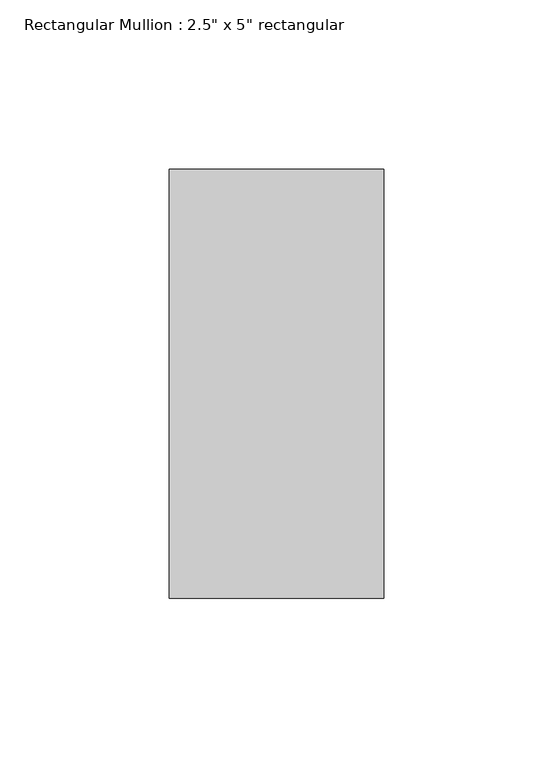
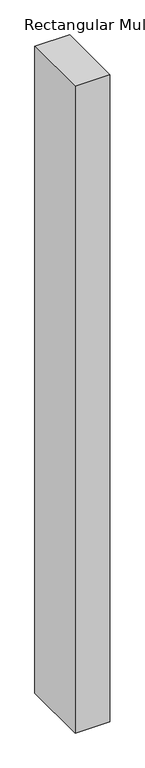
"""IFC4 building model written with IfcOpenShell, lengths in millimetres: member geometry."""

import ifcopenshell
import ifcopenshell.guid

model = None  # the IFC model being written
_history = None  # IfcOwnerHistory: only IFC2X3 demands one
_inside = {}  # id of a spatial element -> (the spatial element, [elements in it])
_under = {}  # id of a project, library or spatial element -> (it, [spatial elements below it])
_declared = {}  # id of a project -> (the project, [libraries it declares])
_typed = {}  # id of a type object -> (the type object, [elements of that type])
_made_of = {}  # id of a material, layer set ... -> (it, [elements and type objects made of it])


def new_model(schema):
    """Start an empty IFC model of exactly this schema.

    Asked for "IFC4X3", IfcOpenShell would pick the latest addendum, in which some entities
    have other attributes; the version numbers below select the first issue.
    IFC2X3 requires an IfcOwnerHistory on every rooted entity: one is made here for all.
    """
    global model, _history
    if schema == "IFC4X3":
        model = ifcopenshell.file(schema_version=(4, 3, 0, 0))
    else:
        model = ifcopenshell.file(schema=schema)
    _inside.clear()
    _under.clear()
    _declared.clear()
    _typed.clear()
    _made_of.clear()
    _history = None
    if model.schema == "IFC2X3":
        org = make("IfcOrganization", Name="unknown")
        user = make(
            "IfcPersonAndOrganization",
            ThePerson=make("IfcPerson", FamilyName="unknown"),
            TheOrganization=org,
        )
        app = make(
            "IfcApplication",
            ApplicationDeveloper=org,
            Version="unknown",
            ApplicationFullName="unknown",
            ApplicationIdentifier="unknown",
        )
        _history = make(
            "IfcOwnerHistory",
            OwningUser=user,
            OwningApplication=app,
            ChangeAction="ADDED",
            CreationDate=0,
        )
    return model


def make(cls, **values):
    """One entity of the class cls with the attributes given. An attribute that is None is left unset."""
    return model.create_entity(
        cls, **{name: value for name, value in values.items() if value is not None}
    )


def rooted(cls, **values):
    """An entity with a GlobalId (a new one), such as an element, a storey or a relation."""
    return make(cls, GlobalId=ifcopenshell.guid.new(), OwnerHistory=_history, **values)


def si_unit(unit_type, name, prefix=None):
    """IfcSIUnit, for example si_unit("LENGTHUNIT", "METRE", prefix="MILLI")."""
    return make("IfcSIUnit", UnitType=unit_type, Prefix=prefix, Name=name)


def assignment(units):
    """IfcUnitAssignment: the units of a project."""
    return None if units is None else make("IfcUnitAssignment", Units=units)


def point(xyz):
    """IfcCartesianPoint."""
    return None if xyz is None else make("IfcCartesianPoint", Coordinates=xyz)


def direction(xyz):
    """IfcDirection."""
    return None if xyz is None else make("IfcDirection", DirectionRatios=xyz)


def frame(location, z_axis=None, x_axis=None):
    """IfcAxis2Placement3D, a coordinate frame: its origin and axes. An axis left out is left unset."""
    return make(
        "IfcAxis2Placement3D",
        Location=point(location),
        Axis=direction(z_axis),
        RefDirection=direction(x_axis),
    )


def origin():
    """The frame at (0, 0, 0) with its axes left unset."""
    return frame((0.0, 0.0, 0.0))


def place(relative_to, where):
    """IfcLocalPlacement: puts the frame where relative to a parent placement (None: the world)."""
    return make(
        "IfcLocalPlacement", PlacementRelTo=relative_to, RelativePlacement=where
    )


def context(
    kind, dimensions, precision=None, world=None, true_north=None, identifier=None
):
    """IfcGeometricRepresentationContext, for example the 3D "Model" context."""
    return make(
        "IfcGeometricRepresentationContext",
        ContextIdentifier=identifier,
        ContextType=kind,
        CoordinateSpaceDimension=dimensions,
        Precision=precision,
        WorldCoordinateSystem=world,
        TrueNorth=true_north,
    )


def project(units=None, contexts=None):
    """IfcProject with its units and contexts."""
    return rooted(
        "IfcProject",
        Name="project",
        RepresentationContexts=contexts,
        UnitsInContext=assignment(units),
    )


def spatial(cls, under=None, at=None, **own):
    """A site, building, storey or space (cls), placed at a placement, below another one or the project."""
    s = rooted(cls, ObjectPlacement=at, **own)
    if under is not None:
        _under.setdefault(under.id(), (under, []))[1].append(s)
    return s


def polyline(points):
    """IfcPolyline through the points."""
    return make("IfcPolyline", Points=[point(p) for p in points])


def outline(outer, holes=None, kind="AREA"):
    """IfcArbitraryClosedProfileDef: a profile drawn as a closed curve; with holes, ...WithVoids."""
    if holes is None:
        return make("IfcArbitraryClosedProfileDef", ProfileType=kind, OuterCurve=outer)
    return make(
        "IfcArbitraryProfileDefWithVoids",
        ProfileType=kind,
        OuterCurve=outer,
        InnerCurves=holes,
    )


def extrude(swept, where, along, depth):
    """IfcExtrudedAreaSolid: the profile swept, set in the frame where, extruded along a direction by depth."""
    return make(
        "IfcExtrudedAreaSolid",
        SweptArea=swept,
        Position=where,
        ExtrudedDirection=direction(along),
        Depth=depth,
    )


def shape(context_of_items, identifier, shape_type, items):
    """IfcShapeRepresentation: the items that make up one representation, for example the "Body"."""
    return make(
        "IfcShapeRepresentation",
        ContextOfItems=context_of_items,
        RepresentationIdentifier=identifier,
        RepresentationType=shape_type,
        Items=items,
    )


def source(mapping_origin, context_of_items, identifier, shape_type, items):
    """IfcRepresentationMap: a shape defined once, which mapped items show again and again."""
    return make(
        "IfcRepresentationMap",
        MappingOrigin=mapping_origin,
        MappedRepresentation=shape(context_of_items, identifier, shape_type, items),
    )


def transform(
    local_origin,
    x_axis=None,
    y_axis=None,
    z_axis=None,
    scale=None,
    scale2=None,
    scale3=None,
    uniform=True,
):
    """IfcCartesianTransformationOperator3D, or its non-uniform kind. x_axis, y_axis, z_axis: its Axis1, 2, 3."""
    if uniform:
        return make(
            "IfcCartesianTransformationOperator3D",
            Axis1=direction(x_axis),
            Axis2=direction(y_axis),
            LocalOrigin=point(local_origin),
            Scale=scale,
            Axis3=direction(z_axis),
        )
    return make(
        "IfcCartesianTransformationOperator3DnonUniform",
        Axis1=direction(x_axis),
        Axis2=direction(y_axis),
        LocalOrigin=point(local_origin),
        Scale=scale,
        Axis3=direction(z_axis),
        Scale2=scale2,
        Scale3=scale3,
    )


def mapped(mapping_source, mapping_target):
    """IfcMappedItem: shows the shape of a source again, moved by a transform."""
    return make(
        "IfcMappedItem", MappingSource=mapping_source, MappingTarget=mapping_target
    )


def made_of(thing, what):
    """Note that an element or type object is made of a material, layer set ...; save() writes the relation."""
    if what is not None:
        _made_of.setdefault(what.id(), (what, []))[1].append(thing)
    return thing


def element(
    cls,
    number,
    at=None,
    inside=None,
    cuts=None,
    type_object=None,
    material=None,
    context=None,
    identifier="Body",
    shape_type=None,
    held_by="IfcProductDefinitionShape",
    body=None,
    shapes=None,
    **own,
):
    """One element of the class cls, such as IfcWall. Its Tag is "e" and its number.

    at: its placement. inside: the storey or other place that contains it. cuts: it is an
    opening in that element (IfcRelVoidsElement). A single representation is given by context,
    identifier, shape_type and body (its items); several are given by shapes. held_by: the class
    of the entity that holds the representations. save() writes the other relations.
    """
    e = rooted(cls, Tag="e%d" % number, ObjectPlacement=at, **own)
    if body is not None:
        shapes = [shape(context, identifier, shape_type, body)]
    if shapes is not None:
        e.Representation = make(held_by, Representations=shapes)
    if inside is not None:
        _inside.setdefault(inside.id(), (inside, []))[1].append(e)
    if cuts is not None:
        rooted(
            "IfcRelVoidsElement", RelatingBuildingElement=cuts, RelatedOpeningElement=e
        )
    if type_object is not None:
        _typed.setdefault(type_object.id(), (type_object, []))[1].append(e)
    return made_of(e, material)


def aggregate(whole, parts):
    """IfcRelAggregates: a whole, such as a stair, and the parts it consists of."""
    return rooted("IfcRelAggregates", RelatingObject=whole, RelatedObjects=parts)


def save(model, path):
    """Write the relations noted so far, then the file.

    IfcRelAggregates (storeys below a building ...), IfcRelContainedInSpatialStructure (elements
    in a storey), IfcRelDefinesByType, IfcRelAssociatesMaterial and IfcRelDeclares: one each for
    every whole, place, type object, material and project.
    """
    for whole, parts in _under.values():
        aggregate(whole, parts)
    for where, things in _inside.values():
        rooted(
            "IfcRelContainedInSpatialStructure",
            RelatedElements=things,
            RelatingStructure=where,
        )
    for kind, things in _typed.values():
        rooted("IfcRelDefinesByType", RelatedObjects=things, RelatingType=kind)
    for what, things in _made_of.values():
        rooted("IfcRelAssociatesMaterial", RelatedObjects=things, RelatingMaterial=what)
    for by, libraries in _declared.values():
        rooted("IfcRelDeclares", RelatingContext=by, RelatedDefinitions=libraries)
    model.write(path)


def member_ab5e8816(model_context):
    return source(origin(), model_context, "Body", "SweptSolid", [
        extrude(outline(polyline([(0.0, 63.5), (0.0, -63.5), (-63.5, -63.5), (-63.5, 63.5), (0.0, 63.5)])), frame((0.0, 0.0, -1246.3988473), z_axis=(0.0, 0.0, 1.0), x_axis=(1.0, 0.0, 0.0)), (0.0, 0.0, 1.0), 1246.3988473),
    ])


if __name__ == "__main__":
    model = new_model("IFC4")
    model_context = context("Model", 3, world=origin())
    ifc_project = project(units=[si_unit("LENGTHUNIT", "METRE", prefix="MILLI")], contexts=[model_context])
    site = spatial("IfcSite", under=ifc_project)
    building = spatial("IfcBuilding", under=site)
    placement = place(None, origin())
    member_shape = member_ab5e8816(model_context)
    element("IfcMember", 1, ObjectType="Rectangular Mullion : 2.5\" x 5\" rectangular", at=placement, inside=building, context=model_context, shape_type="MappedRepresentation", body=[
        mapped(member_shape, transform((0.0, 0.0, 0.0), x_axis=(1.0, 0.0, 0.0), y_axis=(0.0, 1.0, 0.0), z_axis=(0.0, 0.0, 1.0))),
    ])
    save(model, "model.ifc")
